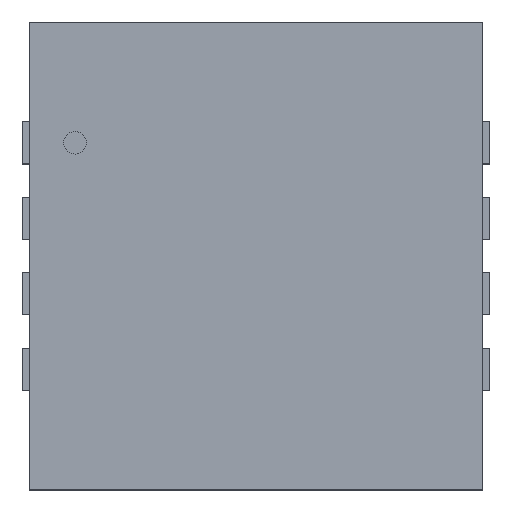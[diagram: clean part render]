
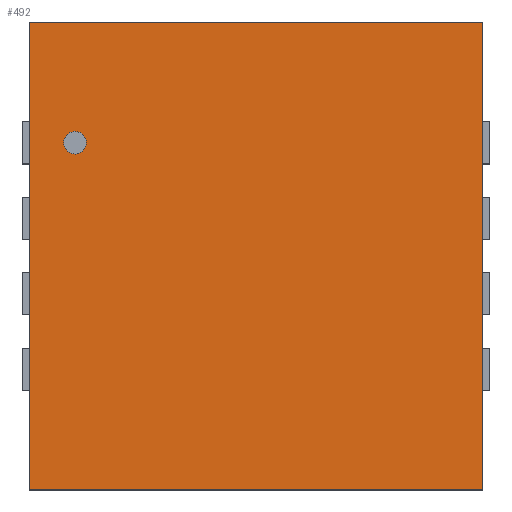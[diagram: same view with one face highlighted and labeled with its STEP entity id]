
A CAD part, top view. The second image highlights one B-rep face of the part: STEP entity #492.
In plain terms, the highlighted planar face has unit normal (0, 0, 1).
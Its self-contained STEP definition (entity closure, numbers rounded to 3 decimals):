
#268=CARTESIAN_POINT('',(1.499,-1.55,0.8));
#267=VERTEX_POINT('',#268);
#278=CARTESIAN_POINT('',(-1.499,-1.55,0.8));
#277=VERTEX_POINT('',#278);
#276=EDGE_CURVE('',#277,#267,#281,.T.);
#281=LINE('',#278,#283);
#283=VECTOR('',#284,2.998);
#284=DIRECTION('',(1.0,0.0,0.0));
#317=CARTESIAN_POINT('',(1.499,1.55,0.8));
#316=VERTEX_POINT('',#317);
#325=EDGE_CURVE('',#267,#316,#330,.T.);
#330=LINE('',#268,#332);
#332=VECTOR('',#333,3.1);
#333=DIRECTION('',(0.0,1.0,0.0));
#366=CARTESIAN_POINT('',(-1.499,1.55,0.8));
#365=VERTEX_POINT('',#366);
#374=EDGE_CURVE('',#316,#365,#379,.T.);
#379=LINE('',#317,#381);
#381=VECTOR('',#382,2.998);
#382=DIRECTION('',(-1.0,0.0,0.0));
#423=EDGE_CURVE('',#365,#277,#428,.T.);
#428=LINE('',#366,#430);
#430=VECTOR('',#431,3.1);
#431=DIRECTION('',(0.0,-1.0,0.0));
#492=ADVANCED_FACE('',(#498),#493,.T.);
#493=PLANE('',#494);
#494=AXIS2_PLACEMENT_3D('',#495,#496,#497);
#495=CARTESIAN_POINT('',(-1.499,-1.55,0.8));
#496=DIRECTION('',(0.0,0.0,1.0));
#497=DIRECTION('',(0.,1.,0.));
#498=FACE_OUTER_BOUND('',#499,.T.);
#499=EDGE_LOOP('',(#500,#510,#520,#530));
#500=ORIENTED_EDGE('',*,*,#276,.T.);
#510=ORIENTED_EDGE('',*,*,#325,.T.);
#520=ORIENTED_EDGE('',*,*,#374,.T.);
#530=ORIENTED_EDGE('',*,*,#423,.T.);
